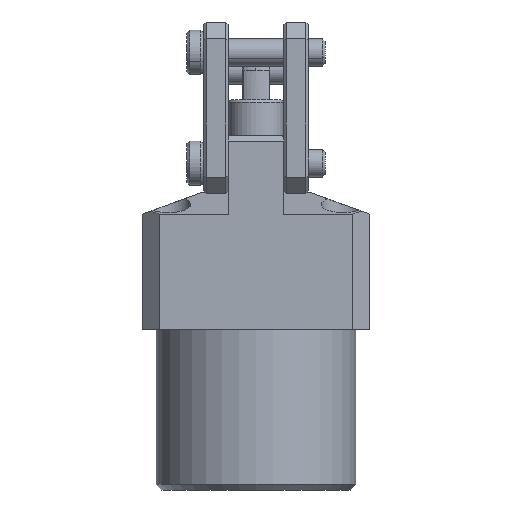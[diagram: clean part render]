
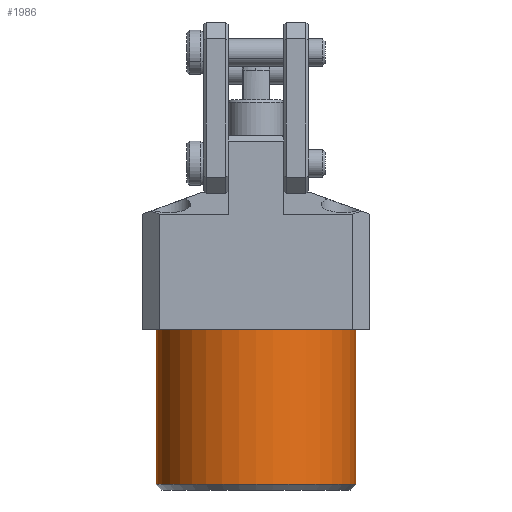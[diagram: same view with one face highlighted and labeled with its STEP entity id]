
A CAD part, front view. The second image highlights one B-rep face of the part: STEP entity #1986.
In plain terms, the highlighted cylindrical face has radius 18 mm (diameter 36 mm), a partial arc.
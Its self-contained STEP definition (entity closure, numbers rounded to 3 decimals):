
#101 = CARTESIAN_POINT ( 'NONE',  ( -18., 0., -28. ) ) ;
#718 = EDGE_CURVE ( 'NONE', #2870, #16185, #1949, .T. ) ;
#849 = VECTOR ( 'NONE', #17644, 1000. ) ;
#1589 = VECTOR ( 'NONE', #19472, 1000. ) ;
#1695 = VERTEX_POINT ( 'NONE', #15769 ) ;
#1738 = EDGE_LOOP ( 'NONE', ( #5572, #17733, #4118, #21544 ) ) ;
#1949 = CIRCLE ( 'NONE', #16924, 18. ) ;
#1986 = ADVANCED_FACE ( 'NONE', ( #16793 ), #20439, .T. ) ;
#2870 = VERTEX_POINT ( 'NONE', #101 ) ;
#3369 = CARTESIAN_POINT ( 'NONE',  ( 18., 0., -28. ) ) ;
#3873 = CIRCLE ( 'NONE', #17508, 18. ) ;
#4118 = ORIENTED_EDGE ( 'NONE', *, *, #18820, .T. ) ;
#5572 = ORIENTED_EDGE ( 'NONE', *, *, #7128, .F. ) ;
#6298 = VERTEX_POINT ( 'NONE', #14843 ) ;
#6308 = CARTESIAN_POINT ( 'NONE',  ( 0., 0., -29. ) ) ;
#6329 = LINE ( 'NONE', #17672, #1589 ) ;
#7128 = EDGE_CURVE ( 'NONE', #2870, #6298, #6329, .T. ) ;
#7475 = CARTESIAN_POINT ( 'NONE',  ( 0., 0., 0. ) ) ;
#7959 = DIRECTION ( 'NONE',  ( 0., 0., 1. ) ) ;
#9295 = DIRECTION ( 'NONE',  ( 1., 0., 0. ) ) ;
#9984 = DIRECTION ( 'NONE',  ( 1., 0., 0. ) ) ;
#11749 = DIRECTION ( 'NONE',  ( 0., 0., 1. ) ) ;
#14494 = LINE ( 'NONE', #21256, #849 ) ;
#14843 = CARTESIAN_POINT ( 'NONE',  ( -18., 0., 0. ) ) ;
#15769 = CARTESIAN_POINT ( 'NONE',  ( 18., 0., 0. ) ) ;
#16185 = VERTEX_POINT ( 'NONE', #3369 ) ;
#16793 = FACE_OUTER_BOUND ( 'NONE', #1738, .T. ) ;
#16924 = AXIS2_PLACEMENT_3D ( 'NONE', #18633, #7959, #20472 ) ;
#17508 = AXIS2_PLACEMENT_3D ( 'NONE', #7475, #19964, #9295 ) ;
#17644 = DIRECTION ( 'NONE',  ( 0., 0., 1. ) ) ;
#17672 = CARTESIAN_POINT ( 'NONE',  ( -18., 0., -29. ) ) ;
#17733 = ORIENTED_EDGE ( 'NONE', *, *, #718, .T. ) ;
#18633 = CARTESIAN_POINT ( 'NONE',  ( 0., 0., -28. ) ) ;
#18820 = EDGE_CURVE ( 'NONE', #16185, #1695, #14494, .T. ) ;
#19472 = DIRECTION ( 'NONE',  ( 0., 0., 1. ) ) ;
#19625 = AXIS2_PLACEMENT_3D ( 'NONE', #6308, #11749, #9984 ) ;
#19964 = DIRECTION ( 'NONE',  ( 0., 0., -1. ) ) ;
#20439 = CYLINDRICAL_SURFACE ( 'NONE', #19625, 18. ) ;
#20472 = DIRECTION ( 'NONE',  ( -1., 0., 0. ) ) ;
#21256 = CARTESIAN_POINT ( 'NONE',  ( 18., 0., -29. ) ) ;
#21544 = ORIENTED_EDGE ( 'NONE', *, *, #22732, .T. ) ;
#22732 = EDGE_CURVE ( 'NONE', #1695, #6298, #3873, .T. ) ;
